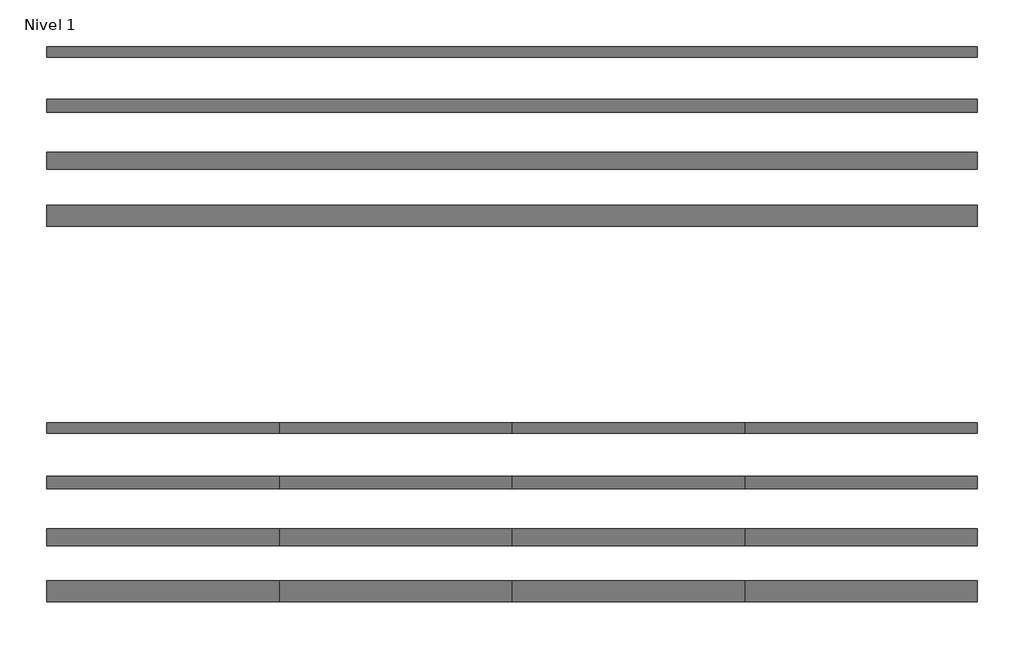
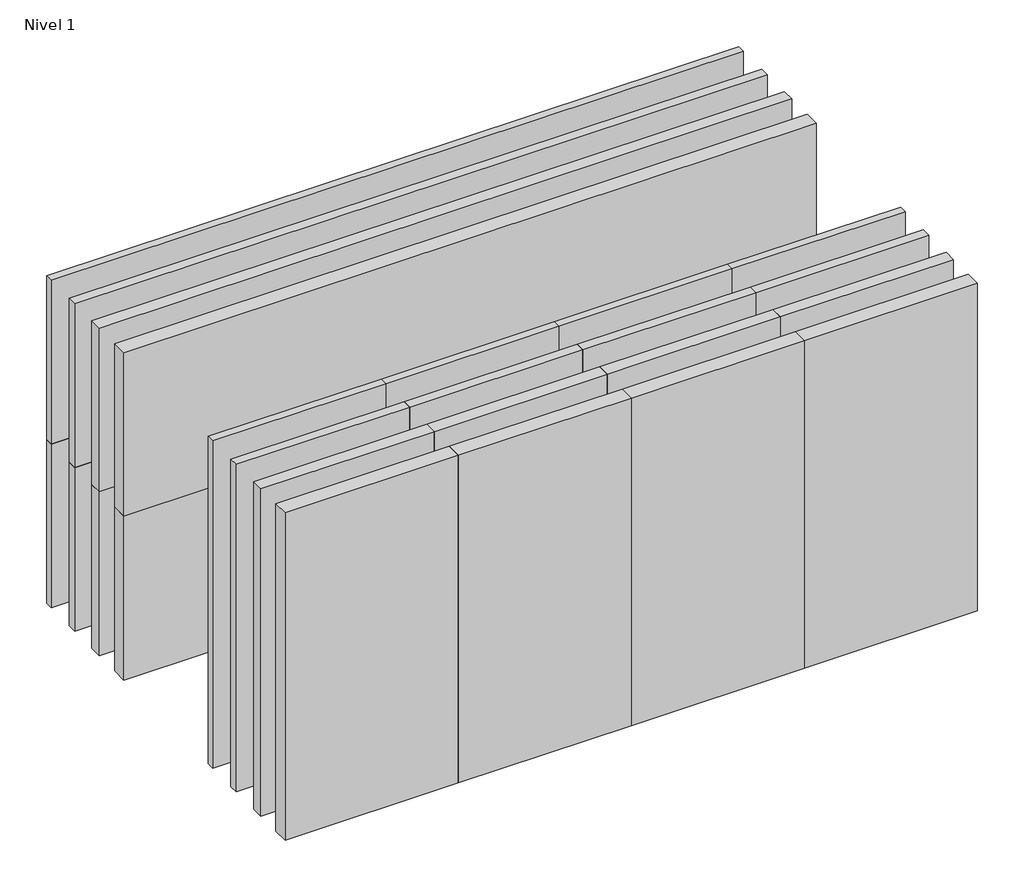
# One storey: 24 plates.
"""IFC4 building model written with IfcOpenShell, lengths in millimetres."""

import ifcopenshell
import ifcopenshell.guid

model = None  # the IFC model being written
_history = None  # IfcOwnerHistory: only IFC2X3 demands one
_inside = {}  # id of a spatial element -> (the spatial element, [elements in it])
_under = {}  # id of a project, library or spatial element -> (it, [spatial elements below it])
_declared = {}  # id of a project -> (the project, [libraries it declares])
_typed = {}  # id of a type object -> (the type object, [elements of that type])
_made_of = {}  # id of a material, layer set ... -> (it, [elements and type objects made of it])


def new_model(schema):
    """Start an empty IFC model of exactly this schema.

    Asked for "IFC4X3", IfcOpenShell would pick the latest addendum, in which some entities
    have other attributes; the version numbers below select the first issue.
    IFC2X3 requires an IfcOwnerHistory on every rooted entity: one is made here for all.
    """
    global model, _history
    if schema == "IFC4X3":
        model = ifcopenshell.file(schema_version=(4, 3, 0, 0))
    else:
        model = ifcopenshell.file(schema=schema)
    _inside.clear()
    _under.clear()
    _declared.clear()
    _typed.clear()
    _made_of.clear()
    _history = None
    if model.schema == "IFC2X3":
        org = make("IfcOrganization", Name="unknown")
        user = make(
            "IfcPersonAndOrganization",
            ThePerson=make("IfcPerson", FamilyName="unknown"),
            TheOrganization=org,
        )
        app = make(
            "IfcApplication",
            ApplicationDeveloper=org,
            Version="unknown",
            ApplicationFullName="unknown",
            ApplicationIdentifier="unknown",
        )
        _history = make(
            "IfcOwnerHistory",
            OwningUser=user,
            OwningApplication=app,
            ChangeAction="ADDED",
            CreationDate=0,
        )
    return model


def make(cls, **values):
    """One entity of the class cls with the attributes given. An attribute that is None is left unset."""
    return model.create_entity(
        cls, **{name: value for name, value in values.items() if value is not None}
    )


def rooted(cls, **values):
    """An entity with a GlobalId (a new one), such as an element, a storey or a relation."""
    return make(cls, GlobalId=ifcopenshell.guid.new(), OwnerHistory=_history, **values)


def si_unit(unit_type, name, prefix=None):
    """IfcSIUnit, for example si_unit("LENGTHUNIT", "METRE", prefix="MILLI")."""
    return make("IfcSIUnit", UnitType=unit_type, Prefix=prefix, Name=name)


def assignment(units):
    """IfcUnitAssignment: the units of a project."""
    return None if units is None else make("IfcUnitAssignment", Units=units)


def point(xyz):
    """IfcCartesianPoint."""
    return None if xyz is None else make("IfcCartesianPoint", Coordinates=xyz)


def direction(xyz):
    """IfcDirection."""
    return None if xyz is None else make("IfcDirection", DirectionRatios=xyz)


def frame(location, z_axis=None, x_axis=None):
    """IfcAxis2Placement3D, a coordinate frame: its origin and axes. An axis left out is left unset."""
    return make(
        "IfcAxis2Placement3D",
        Location=point(location),
        Axis=direction(z_axis),
        RefDirection=direction(x_axis),
    )


def origin():
    """The frame at (0, 0, 0) with its axes left unset."""
    return frame((0.0, 0.0, 0.0))


def origin_with_axes():
    """The frame at (0, 0, 0) with the z axis (0, 0, 1) and the x axis (1, 0, 0) written out."""
    return frame((0.0, 0.0, 0.0), z_axis=(0.0, 0.0, 1.0), x_axis=(1.0, 0.0, 0.0))


def place(relative_to, where):
    """IfcLocalPlacement: puts the frame where relative to a parent placement (None: the world)."""
    return make(
        "IfcLocalPlacement", PlacementRelTo=relative_to, RelativePlacement=where
    )


def context(
    kind, dimensions, precision=None, world=None, true_north=None, identifier=None
):
    """IfcGeometricRepresentationContext, for example the 3D "Model" context."""
    return make(
        "IfcGeometricRepresentationContext",
        ContextIdentifier=identifier,
        ContextType=kind,
        CoordinateSpaceDimension=dimensions,
        Precision=precision,
        WorldCoordinateSystem=world,
        TrueNorth=true_north,
    )


def project(units=None, contexts=None):
    """IfcProject with its units and contexts."""
    return rooted(
        "IfcProject",
        Name="project",
        RepresentationContexts=contexts,
        UnitsInContext=assignment(units),
    )


def spatial(cls, under=None, at=None, **own):
    """A site, building, storey or space (cls), placed at a placement, below another one or the project."""
    s = rooted(cls, ObjectPlacement=at, **own)
    if under is not None:
        _under.setdefault(under.id(), (under, []))[1].append(s)
    return s


def polyline(points):
    """IfcPolyline through the points."""
    return make("IfcPolyline", Points=[point(p) for p in points])


def outline(outer, holes=None, kind="AREA"):
    """IfcArbitraryClosedProfileDef: a profile drawn as a closed curve; with holes, ...WithVoids."""
    if holes is None:
        return make("IfcArbitraryClosedProfileDef", ProfileType=kind, OuterCurve=outer)
    return make(
        "IfcArbitraryProfileDefWithVoids",
        ProfileType=kind,
        OuterCurve=outer,
        InnerCurves=holes,
    )


def extrude(swept, where, along, depth):
    """IfcExtrudedAreaSolid: the profile swept, set in the frame where, extruded along a direction by depth."""
    return make(
        "IfcExtrudedAreaSolid",
        SweptArea=swept,
        Position=where,
        ExtrudedDirection=direction(along),
        Depth=depth,
    )


def shape(context_of_items, identifier, shape_type, items):
    """IfcShapeRepresentation: the items that make up one representation, for example the "Body"."""
    return make(
        "IfcShapeRepresentation",
        ContextOfItems=context_of_items,
        RepresentationIdentifier=identifier,
        RepresentationType=shape_type,
        Items=items,
    )


def source(mapping_origin, context_of_items, identifier, shape_type, items):
    """IfcRepresentationMap: a shape defined once, which mapped items show again and again."""
    return make(
        "IfcRepresentationMap",
        MappingOrigin=mapping_origin,
        MappedRepresentation=shape(context_of_items, identifier, shape_type, items),
    )


def transform(
    local_origin,
    x_axis=None,
    y_axis=None,
    z_axis=None,
    scale=None,
    scale2=None,
    scale3=None,
    uniform=True,
):
    """IfcCartesianTransformationOperator3D, or its non-uniform kind. x_axis, y_axis, z_axis: its Axis1, 2, 3."""
    if uniform:
        return make(
            "IfcCartesianTransformationOperator3D",
            Axis1=direction(x_axis),
            Axis2=direction(y_axis),
            LocalOrigin=point(local_origin),
            Scale=scale,
            Axis3=direction(z_axis),
        )
    return make(
        "IfcCartesianTransformationOperator3DnonUniform",
        Axis1=direction(x_axis),
        Axis2=direction(y_axis),
        LocalOrigin=point(local_origin),
        Scale=scale,
        Axis3=direction(z_axis),
        Scale2=scale2,
        Scale3=scale3,
    )


def mapped(mapping_source, mapping_target):
    """IfcMappedItem: shows the shape of a source again, moved by a transform."""
    return make(
        "IfcMappedItem", MappingSource=mapping_source, MappingTarget=mapping_target
    )


def made_of(thing, what):
    """Note that an element or type object is made of a material, layer set ...; save() writes the relation."""
    if what is not None:
        _made_of.setdefault(what.id(), (what, []))[1].append(thing)
    return thing


def element(
    cls,
    number,
    at=None,
    inside=None,
    cuts=None,
    type_object=None,
    material=None,
    context=None,
    identifier="Body",
    shape_type=None,
    held_by="IfcProductDefinitionShape",
    body=None,
    shapes=None,
    **own,
):
    """One element of the class cls, such as IfcWall. Its Tag is "e" and its number.

    at: its placement. inside: the storey or other place that contains it. cuts: it is an
    opening in that element (IfcRelVoidsElement). A single representation is given by context,
    identifier, shape_type and body (its items); several are given by shapes. held_by: the class
    of the entity that holds the representations. save() writes the other relations.
    """
    e = rooted(cls, Tag="e%d" % number, ObjectPlacement=at, **own)
    if body is not None:
        shapes = [shape(context, identifier, shape_type, body)]
    if shapes is not None:
        e.Representation = make(held_by, Representations=shapes)
    if inside is not None:
        _inside.setdefault(inside.id(), (inside, []))[1].append(e)
    if cuts is not None:
        rooted(
            "IfcRelVoidsElement", RelatingBuildingElement=cuts, RelatedOpeningElement=e
        )
    if type_object is not None:
        _typed.setdefault(type_object.id(), (type_object, []))[1].append(e)
    return made_of(e, material)


def aggregate(whole, parts):
    """IfcRelAggregates: a whole, such as a stair, and the parts it consists of."""
    return rooted("IfcRelAggregates", RelatingObject=whole, RelatedObjects=parts)


def save(model, path):
    """Write the relations noted so far, then the file.

    IfcRelAggregates (storeys below a building ...), IfcRelContainedInSpatialStructure (elements
    in a storey), IfcRelDefinesByType, IfcRelAssociatesMaterial and IfcRelDeclares: one each for
    every whole, place, type object, material and project.
    """
    for whole, parts in _under.values():
        aggregate(whole, parts)
    for where, things in _inside.values():
        rooted(
            "IfcRelContainedInSpatialStructure",
            RelatedElements=things,
            RelatingStructure=where,
        )
    for kind, things in _typed.values():
        rooted("IfcRelDefinesByType", RelatedObjects=things, RelatingType=kind)
    for what, things in _made_of.values():
        rooted("IfcRelAssociatesMaterial", RelatedObjects=things, RelatingMaterial=what)
    for by, libraries in _declared.values():
        rooted("IfcRelDeclares", RelatingContext=by, RelatedDefinitions=libraries)
    model.write(path)


def panel_del_sistema_0b9e4619(model_context):
    return source(origin(), model_context, "Body", "SweptSolid", [
        extrude(outline(polyline([(550.0000002, -50.0), (-550.0000002, -50.0), (-550.0000002, 0.0), (550.0000002, 0.0), (550.0000002, -50.0)])), origin_with_axes(), (0.0, 0.0, 1.0), 2200.0),
    ])


def panel_del_sistema_00c51783(model_context):
    return source(origin(), model_context, "Body", "SweptSolid", [
        extrude(outline(polyline([(550.0000002, -60.0), (-550.0000002, -60.0), (-550.0000002, 0.0), (550.0000002, 0.0), (550.0000002, -60.0)])), origin_with_axes(), (0.0, 0.0, 1.0), 2200.0),
    ])


def panel_del_sistema_633de202(model_context):
    return source(origin(), model_context, "Body", "SweptSolid", [
        extrude(outline(polyline([(550.0000002, -80.0), (-550.0000002, -80.0), (-550.0000002, 0.0), (550.0000002, 0.0), (550.0000002, -80.0)])), origin_with_axes(), (0.0, 0.0, 1.0), 2200.0),
    ])


def panel_del_sistema_becaef52(model_context):
    return source(origin(), model_context, "Body", "SweptSolid", [
        extrude(outline(polyline([(550.0000002, -100.0), (-550.0000002, -100.0), (-550.0000002, 0.0), (550.0000002, 0.0), (550.0000002, -100.0)])), origin_with_axes(), (0.0, 0.0, 1.0), 2200.0),
    ])


def panel_del_sistema_94bf3e14(model_context):
    return source(origin(), model_context, "Body", "SweptSolid", [
        extrude(outline(polyline([(2200.0, -50.0), (-2200.0, -50.0), (-2200.0, 0.0), (2200.0, 0.0), (2200.0, -50.0)])), origin_with_axes(), (0.0, 0.0, 1.0), 1100.0),
    ])


def panel_del_sistema_2f3d27e1(model_context):
    return source(origin(), model_context, "Body", "SweptSolid", [
        extrude(outline(polyline([(2200.0, -60.0), (-2200.0, -60.0), (-2200.0, 0.0), (2200.0, 0.0), (2200.0, -60.0)])), origin_with_axes(), (0.0, 0.0, 1.0), 1100.0),
    ])


def panel_del_sistema_6b5bd5af(model_context):
    return source(origin(), model_context, "Body", "SweptSolid", [
        extrude(outline(polyline([(2200.0, -80.0), (-2200.0, -80.0), (-2200.0, 0.0), (2200.0, 0.0), (2200.0, -80.0)])), origin_with_axes(), (0.0, 0.0, 1.0), 1100.0),
    ])


def panel_del_sistema_5ed96f91(model_context):
    return source(origin(), model_context, "Body", "SweptSolid", [
        extrude(outline(polyline([(2200.0, -100.0), (-2200.0, -100.0), (-2200.0, 0.0), (2200.0, 0.0), (2200.0, -100.0)])), origin_with_axes(), (0.0, 0.0, 1.0), 1100.0),
    ])


model = new_model("IFC4")

# Units and contexts
model_context = context("Model", 3, world=origin())
ifc_project = project(units=[si_unit("LENGTHUNIT", "METRE", prefix="MILLI")], contexts=[model_context])

# Site, building, storey
site = spatial("IfcSite", under=ifc_project)
building = spatial("IfcBuilding", under=site)
storey = spatial("IfcBuildingStorey", under=building, Name="Nivel 1", Elevation=0.0)

# Plates
placement = place(None, origin())
panel_del_sistema_shape = panel_del_sistema_0b9e4619(model_context)
element("IfcPlate", 1, ObjectType="Panel del sistema : Hiansa Panel - Fachada Panel SEMILISO HFM Vert - 50mm", at=placement, inside=storey, context=model_context, shape_type="MappedRepresentation", body=[
    mapped(panel_del_sistema_shape, transform((4818.1436702, 16658.0269271, 0.0), x_axis=(1.0, 0.0, 0.0), y_axis=(0.0, 1.0, 0.0), z_axis=(0.0, 0.0, 1.0))),
])
element("IfcPlate", 2, ObjectType="Panel del sistema : Hiansa Panel - Fachada Panel SEMILISO HFM Vert - 50mm", at=placement, inside=storey, context=model_context, shape_type="MappedRepresentation", body=[
    mapped(panel_del_sistema_shape, transform((5918.1436703, 16658.0269271, 0.0), x_axis=(1.0, 0.0, 0.0), y_axis=(0.0, 1.0, 0.0), z_axis=(0.0, 0.0, 1.0))),
])
element("IfcPlate", 3, ObjectType="Panel del sistema : Hiansa Panel - Fachada Panel SEMILISO HFM Vert - 50mm", at=placement, inside=storey, context=model_context, shape_type="MappedRepresentation", body=[
    mapped(panel_del_sistema_shape, transform((7018.1436703, 16658.0269271, 0.0), x_axis=(1.0, 0.0, 0.0), y_axis=(0.0, 1.0, 0.0), z_axis=(0.0, 0.0, 1.0))),
])
element("IfcPlate", 4, ObjectType="Panel del sistema : Hiansa Panel - Fachada Panel SEMILISO HFM Vert - 50mm", at=placement, inside=storey, context=model_context, shape_type="MappedRepresentation", body=[
    mapped(panel_del_sistema_shape, transform((8118.1436702, 16658.0269271, 0.0), x_axis=(1.0, 0.0, 0.0), y_axis=(0.0, 1.0, 0.0), z_axis=(0.0, 0.0, 1.0))),
])
panel_del_sistema_2_shape = panel_del_sistema_00c51783(model_context)
element("IfcPlate", 5, ObjectType="Panel del sistema : Hiansa Panel - Fachada Panel SEMILISO HFM Vert - 60mm", at=placement, inside=storey, context=model_context, shape_type="MappedRepresentation", body=[
    mapped(panel_del_sistema_2_shape, transform((4818.1436702, 16406.5269271, 0.0), x_axis=(1.0, 0.0, 0.0), y_axis=(0.0, 1.0, 0.0), z_axis=(0.0, 0.0, 1.0))),
])
element("IfcPlate", 6, ObjectType="Panel del sistema : Hiansa Panel - Fachada Panel SEMILISO HFM Vert - 60mm", at=placement, inside=storey, context=model_context, shape_type="MappedRepresentation", body=[
    mapped(panel_del_sistema_2_shape, transform((5918.1436703, 16406.5269271, 0.0), x_axis=(1.0, 0.0, 0.0), y_axis=(0.0, 1.0, 0.0), z_axis=(0.0, 0.0, 1.0))),
])
element("IfcPlate", 7, ObjectType="Panel del sistema : Hiansa Panel - Fachada Panel SEMILISO HFM Vert - 60mm", at=placement, inside=storey, context=model_context, shape_type="MappedRepresentation", body=[
    mapped(panel_del_sistema_2_shape, transform((7018.1436703, 16406.5269271, 0.0), x_axis=(1.0, 0.0, 0.0), y_axis=(0.0, 1.0, 0.0), z_axis=(0.0, 0.0, 1.0))),
])
element("IfcPlate", 8, ObjectType="Panel del sistema : Hiansa Panel - Fachada Panel SEMILISO HFM Vert - 60mm", at=placement, inside=storey, context=model_context, shape_type="MappedRepresentation", body=[
    mapped(panel_del_sistema_2_shape, transform((8118.1436702, 16406.5269271, 0.0), x_axis=(1.0, 0.0, 0.0), y_axis=(0.0, 1.0, 0.0), z_axis=(0.0, 0.0, 1.0))),
])
panel_del_sistema_3_shape = panel_del_sistema_633de202(model_context)
element("IfcPlate", 9, ObjectType="Panel del sistema : Hiansa Panel - Fachada Panel SEMILISO HFM Vert - 80mm", at=placement, inside=storey, context=model_context, shape_type="MappedRepresentation", body=[
    mapped(panel_del_sistema_3_shape, transform((4818.1436702, 16156.5269271, 0.0), x_axis=(1.0, 0.0, 0.0), y_axis=(0.0, 1.0, 0.0), z_axis=(0.0, 0.0, 1.0))),
])
element("IfcPlate", 10, ObjectType="Panel del sistema : Hiansa Panel - Fachada Panel SEMILISO HFM Vert - 80mm", at=placement, inside=storey, context=model_context, shape_type="MappedRepresentation", body=[
    mapped(panel_del_sistema_3_shape, transform((5918.1436703, 16156.5269271, 0.0), x_axis=(1.0, 0.0, 0.0), y_axis=(0.0, 1.0, 0.0), z_axis=(0.0, 0.0, 1.0))),
])
element("IfcPlate", 11, ObjectType="Panel del sistema : Hiansa Panel - Fachada Panel SEMILISO HFM Vert - 80mm", at=placement, inside=storey, context=model_context, shape_type="MappedRepresentation", body=[
    mapped(panel_del_sistema_3_shape, transform((7018.1436703, 16156.5269271, 0.0), x_axis=(1.0, 0.0, 0.0), y_axis=(0.0, 1.0, 0.0), z_axis=(0.0, 0.0, 1.0))),
])
element("IfcPlate", 12, ObjectType="Panel del sistema : Hiansa Panel - Fachada Panel SEMILISO HFM Vert - 80mm", at=placement, inside=storey, context=model_context, shape_type="MappedRepresentation", body=[
    mapped(panel_del_sistema_3_shape, transform((8118.1436702, 16156.5269271, 0.0), x_axis=(1.0, 0.0, 0.0), y_axis=(0.0, 1.0, 0.0), z_axis=(0.0, 0.0, 1.0))),
])
panel_del_sistema_4_shape = panel_del_sistema_becaef52(model_context)
element("IfcPlate", 13, ObjectType="Panel del sistema : Hiansa Panel - Fachada Panel SEMILISO HFM Vert - 100mm", at=placement, inside=storey, context=model_context, shape_type="MappedRepresentation", body=[
    mapped(panel_del_sistema_4_shape, transform((4818.1436702, 15911.2729271, 0.0), x_axis=(1.0, 0.0, 0.0), y_axis=(0.0, 1.0, 0.0), z_axis=(0.0, 0.0, 1.0))),
])
element("IfcPlate", 14, ObjectType="Panel del sistema : Hiansa Panel - Fachada Panel SEMILISO HFM Vert - 100mm", at=placement, inside=storey, context=model_context, shape_type="MappedRepresentation", body=[
    mapped(panel_del_sistema_4_shape, transform((5918.1436703, 15911.2729271, 0.0), x_axis=(1.0, 0.0, 0.0), y_axis=(0.0, 1.0, 0.0), z_axis=(0.0, 0.0, 1.0))),
])
element("IfcPlate", 15, ObjectType="Panel del sistema : Hiansa Panel - Fachada Panel SEMILISO HFM Vert - 100mm", at=placement, inside=storey, context=model_context, shape_type="MappedRepresentation", body=[
    mapped(panel_del_sistema_4_shape, transform((7018.1436703, 15911.2729271, 0.0), x_axis=(1.0, 0.0, 0.0), y_axis=(0.0, 1.0, 0.0), z_axis=(0.0, 0.0, 1.0))),
])
element("IfcPlate", 16, ObjectType="Panel del sistema : Hiansa Panel - Fachada Panel SEMILISO HFM Vert - 100mm", at=placement, inside=storey, context=model_context, shape_type="MappedRepresentation", body=[
    mapped(panel_del_sistema_4_shape, transform((8118.1436702, 15911.2729271, 0.0), x_axis=(1.0, 0.0, 0.0), y_axis=(0.0, 1.0, 0.0), z_axis=(0.0, 0.0, 1.0))),
])
panel_del_sistema_5_shape = panel_del_sistema_94bf3e14(model_context)
element("IfcPlate", 17, ObjectType="Panel del sistema : Hiansa Panel - Fachada Panel SEMILISO HFM Hor - 50mm", at=placement, inside=storey, context=model_context, shape_type="MappedRepresentation", body=[
    mapped(panel_del_sistema_5_shape, transform((6468.14367, 18436.5269271, 0.0), x_axis=(1.0, 0.0, 0.0), y_axis=(0.0, 1.0, 0.0), z_axis=(0.0, 0.0, 1.0))),
])
element("IfcPlate", 18, ObjectType="Panel del sistema : Hiansa Panel - Fachada Panel SEMILISO HFM Hor - 50mm", at=placement, inside=storey, context=model_context, shape_type="MappedRepresentation", body=[
    mapped(panel_del_sistema_5_shape, transform((6468.14367, 18436.5269271, 1100.0), x_axis=(1.0, 0.0, 0.0), y_axis=(0.0, 1.0, 0.0), z_axis=(0.0, 0.0, 1.0))),
])
panel_del_sistema_6_shape = panel_del_sistema_2f3d27e1(model_context)
element("IfcPlate", 19, ObjectType="Panel del sistema : Hiansa Panel - Fachada Panel SEMILISO HFM Hor - 60mm", at=placement, inside=storey, context=model_context, shape_type="MappedRepresentation", body=[
    mapped(panel_del_sistema_6_shape, transform((6468.14367, 18186.5269271, 0.0), x_axis=(1.0, 0.0, 0.0), y_axis=(0.0, 1.0, 0.0), z_axis=(0.0, 0.0, 1.0))),
])
element("IfcPlate", 20, ObjectType="Panel del sistema : Hiansa Panel - Fachada Panel SEMILISO HFM Hor - 60mm", at=placement, inside=storey, context=model_context, shape_type="MappedRepresentation", body=[
    mapped(panel_del_sistema_6_shape, transform((6468.14367, 18186.5269271, 1100.0), x_axis=(1.0, 0.0, 0.0), y_axis=(0.0, 1.0, 0.0), z_axis=(0.0, 0.0, 1.0))),
])
panel_del_sistema_7_shape = panel_del_sistema_6b5bd5af(model_context)
element("IfcPlate", 21, ObjectType="Panel del sistema : Hiansa Panel - Fachada Panel SEMILISO HFM Hor - 80mm", at=placement, inside=storey, context=model_context, shape_type="MappedRepresentation", body=[
    mapped(panel_del_sistema_7_shape, transform((6468.14367, 17936.5269271, 0.0), x_axis=(1.0, 0.0, 0.0), y_axis=(0.0, 1.0, 0.0), z_axis=(0.0, 0.0, 1.0))),
])
element("IfcPlate", 22, ObjectType="Panel del sistema : Hiansa Panel - Fachada Panel SEMILISO HFM Hor - 80mm", at=placement, inside=storey, context=model_context, shape_type="MappedRepresentation", body=[
    mapped(panel_del_sistema_7_shape, transform((6468.14367, 17936.5269271, 1100.0), x_axis=(1.0, 0.0, 0.0), y_axis=(0.0, 1.0, 0.0), z_axis=(0.0, 0.0, 1.0))),
])
panel_del_sistema_8_shape = panel_del_sistema_5ed96f91(model_context)
element("IfcPlate", 23, ObjectType="Panel del sistema : Hiansa Panel - Fachada Panel SEMILISO HFM Hor - 100mm", at=placement, inside=storey, context=model_context, shape_type="MappedRepresentation", body=[
    mapped(panel_del_sistema_8_shape, transform((6468.14367, 17686.5269271, 0.0), x_axis=(1.0, 0.0, 0.0), y_axis=(0.0, 1.0, 0.0), z_axis=(0.0, 0.0, 1.0))),
])
element("IfcPlate", 24, ObjectType="Panel del sistema : Hiansa Panel - Fachada Panel SEMILISO HFM Hor - 100mm", at=placement, inside=storey, context=model_context, shape_type="MappedRepresentation", body=[
    mapped(panel_del_sistema_8_shape, transform((6468.14367, 17686.5269271, 1100.0), x_axis=(1.0, 0.0, 0.0), y_axis=(0.0, 1.0, 0.0), z_axis=(0.0, 0.0, 1.0))),
])

save(model, "model.ifc")
